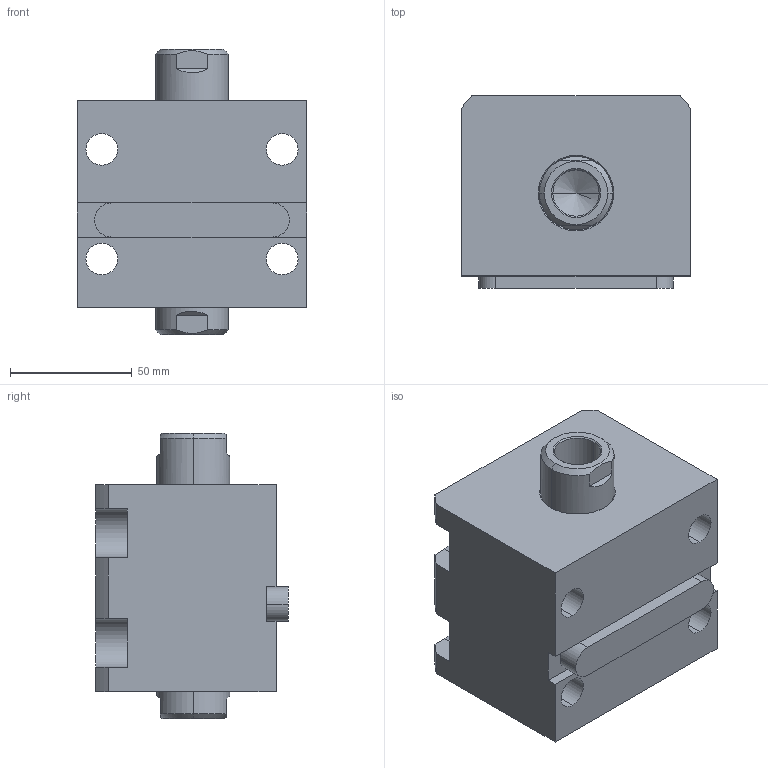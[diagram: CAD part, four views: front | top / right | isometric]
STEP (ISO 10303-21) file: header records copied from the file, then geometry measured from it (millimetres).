
FILE_DESCRIPTION (( 'STEP AP203' ), '1' );
FILE_NAME ('CHTB-LW50-10N.STEP', '2018-05-18T02:19:26', ( '' ), ( '' ), 'SwSTEP 2.0', 'SolidWorks 2015', '' );
FILE_SCHEMA (( 'CONFIG_CONTROL_DESIGN' ));
Length unit declared in the file: millimetre
Products named in the file (4): CHTB-LW50-10N; 掛极LW50-10N; 活塞杆LW50-10N; CHTM-SDMA50QG
Assembly tree (3 placements, depth 2):
  CHTB-LW50-10N
    掛极LW50-10N
    活塞杆LW50-10N
    CHTM-SDMA50QG
Bounding box: 94 x 79 x 117 mm (x, y, z)
Volume: 528937.9 mm3; surface area: 100926 mm2
Topology: 3 solids, 3 shells, 221 faces, 588 edges, 385 vertices
Faces by surface type: cylinder 102, plane 58, cone 31, torus 16, bspline 14
Entity records: 11831 total; most frequent: CARTESIAN_POINT 6126, ORIENTED_EDGE 1160, DIRECTION 1056, EDGE_CURVE 580, AXIS2_PLACEMENT_3D 416, VERTEX_POINT 385, EDGE_LOOP 257, VECTOR 224
